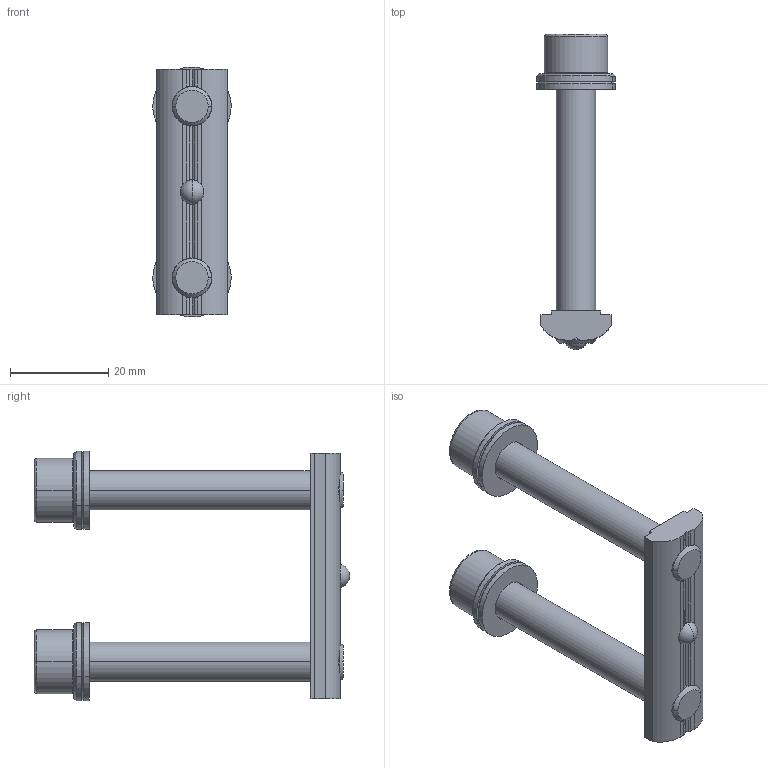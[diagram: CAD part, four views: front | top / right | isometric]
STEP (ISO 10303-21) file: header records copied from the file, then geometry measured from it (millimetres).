
FILE_DESCRIPTION (( 'STEP AP203' ), '1' );
FILE_NAME ('75000006.STEP', '2016-11-18T07:00:26', ( '' ), ( '' ), 'SwSTEP 2.0', 'SolidWorks 2015', '' );
FILE_SCHEMA (( 'CONFIG_CONTROL_DESIGN' ));
Length unit declared in the file: millimetre
Products named in the file (1): 75000006
Bounding box: 15.99 x 64.3 x 50.98 mm (x, y, z)
Volume: 11350.7 mm3; surface area: 7005.2 mm2
Topology: 1 solids, 1 shells, 113 faces, 281 edges, 179 vertices
Faces by surface type: plane 51, cylinder 40, cone 16, torus 4, sphere 2
Entity records: 3942 total; most frequent: CARTESIAN_POINT 1174, ORIENTED_EDGE 562, DIRECTION 559, EDGE_CURVE 281, AXIS2_PLACEMENT_3D 208, VERTEX_POINT 179, LINE 143, VECTOR 143
